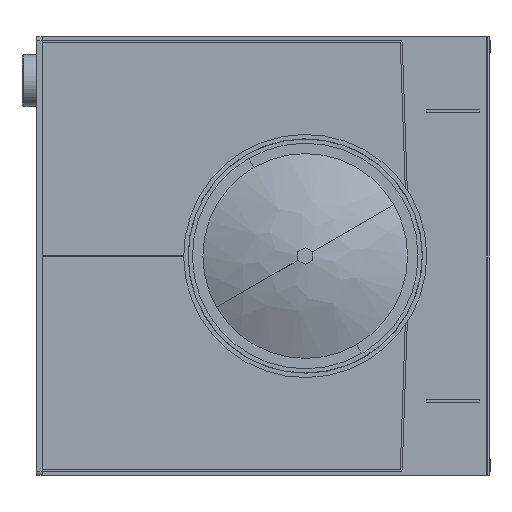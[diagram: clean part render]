
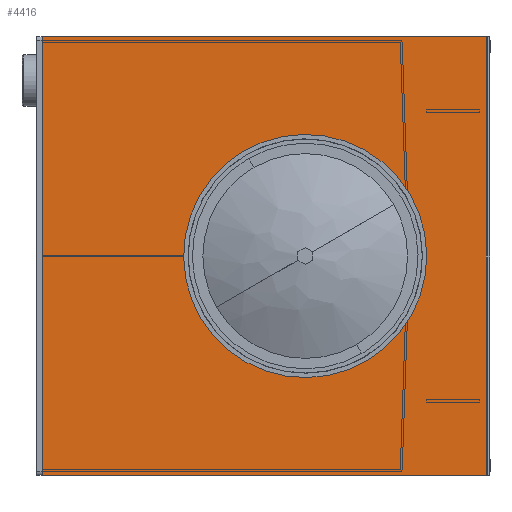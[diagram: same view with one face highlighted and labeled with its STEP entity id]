
A CAD part, left-side view. The second image highlights one B-rep face of the part: STEP entity #4416.
In plain terms, the highlighted planar face has unit normal (-1, 0, 0) as drawn and (1, 0, 0) by its records, which use the part's own axes.
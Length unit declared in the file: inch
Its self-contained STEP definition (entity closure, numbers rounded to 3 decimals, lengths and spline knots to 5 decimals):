
#135 = AXIS2_PLACEMENT_3D ( 'NONE', #1831, #8805, #6735 ) ;
#156 = EDGE_CURVE ( 'NONE', #209, #452, #7527, .T. ) ;
#209 = VERTEX_POINT ( 'NONE', #396 ) ;
#284 = EDGE_CURVE ( 'NONE', #1583, #8450, #1365, .T. ) ;
#347 = VERTEX_POINT ( 'NONE', #1996 ) ;
#396 = CARTESIAN_POINT ( 'NONE',  ( 0., 100.1603, -15. ) ) ;
#444 = CARTESIAN_POINT ( 'NONE',  ( 0., 0., 0. ) ) ;
#452 = VERTEX_POINT ( 'NONE', #7043 ) ;
#520 = FACE_OUTER_BOUND ( 'NONE', #1074, .T. ) ;
#521 = DIRECTION ( 'NONE',  ( 0., 1., 0. ) ) ;
#662 = DIRECTION ( 'NONE',  ( 1., 0., 0. ) ) ;
#1074 = EDGE_LOOP ( 'NONE', ( #1839, #1937, #6193, #6730 ) ) ;
#1123 = CARTESIAN_POINT ( 'NONE',  ( 0., 99.9103, 15. ) ) ;
#1254 = ORIENTED_EDGE ( 'NONE', *, *, #7769, .F. ) ;
#1365 = CIRCLE ( 'NONE', #3961, 7. ) ;
#1583 = VERTEX_POINT ( 'NONE', #5091 ) ;
#1831 = CARTESIAN_POINT ( 'NONE',  ( 0., 112.5448, 0. ) ) ;
#1839 = ORIENTED_EDGE ( 'NONE', *, *, #5697, .T. ) ;
#1937 = ORIENTED_EDGE ( 'NONE', *, *, #156, .T. ) ;
#1996 = CARTESIAN_POINT ( 'NONE',  ( 0., 100.1603, 15. ) ) ;
#2031 = CARTESIAN_POINT ( 'NONE',  ( 0., 112.5448, 0. ) ) ;
#2075 = CIRCLE ( 'NONE', #135, 7. ) ;
#2271 = VERTEX_POINT ( 'NONE', #7236 ) ;
#2508 = EDGE_CURVE ( 'NONE', #2271, #347, #8921, .T. ) ;
#2922 = CARTESIAN_POINT ( 'NONE',  ( 0., 130.5353, 15. ) ) ;
#2935 = AXIS2_PLACEMENT_3D ( 'NONE', #444, #6038, #3834 ) ;
#2984 = DIRECTION ( 'NONE',  ( 0., 0., 1. ) ) ;
#3481 = DIRECTION ( 'NONE',  ( 0., 0., -1. ) ) ;
#3784 = EDGE_LOOP ( 'NONE', ( #1254, #4096 ) ) ;
#3834 = DIRECTION ( 'NONE',  ( 0., 0., 1. ) ) ;
#3899 = PLANE ( 'NONE',  #2935 ) ;
#3961 = AXIS2_PLACEMENT_3D ( 'NONE', #2031, #662, #3481 ) ;
#4096 = ORIENTED_EDGE ( 'NONE', *, *, #284, .F. ) ;
#4416 = ADVANCED_FACE ( 'NONE', ( #7457, #520 ), #3899, .F. ) ;
#5091 = CARTESIAN_POINT ( 'NONE',  ( 0., 112.5448, 7. ) ) ;
#5223 = VECTOR ( 'NONE', #8966, 39.37008 ) ;
#5427 = CARTESIAN_POINT ( 'NONE',  ( 0., 99.9103, -15. ) ) ;
#5434 = VECTOR ( 'NONE', #521, 39.37008 ) ;
#5627 = VECTOR ( 'NONE', #6728, 39.37008 ) ;
#5697 = EDGE_CURVE ( 'NONE', #347, #209, #7088, .T. ) ;
#5921 = LINE ( 'NONE', #2922, #8673 ) ;
#6038 = DIRECTION ( 'NONE',  ( -1., 0., 0. ) ) ;
#6193 = ORIENTED_EDGE ( 'NONE', *, *, #7658, .T. ) ;
#6728 = DIRECTION ( 'NONE',  ( 0., -1., 0. ) ) ;
#6730 = ORIENTED_EDGE ( 'NONE', *, *, #2508, .T. ) ;
#6735 = DIRECTION ( 'NONE',  ( 0., 0., -1. ) ) ;
#6744 = CARTESIAN_POINT ( 'NONE',  ( 0., 112.5448, -7. ) ) ;
#7043 = CARTESIAN_POINT ( 'NONE',  ( 0., 130.5353, -15. ) ) ;
#7088 = LINE ( 'NONE', #8258, #5223 ) ;
#7236 = CARTESIAN_POINT ( 'NONE',  ( 0., 130.5353, 15. ) ) ;
#7457 = FACE_BOUND ( 'NONE', #3784, .T. ) ;
#7527 = LINE ( 'NONE', #5427, #5434 ) ;
#7658 = EDGE_CURVE ( 'NONE', #452, #2271, #5921, .T. ) ;
#7769 = EDGE_CURVE ( 'NONE', #8450, #1583, #2075, .T. ) ;
#8258 = CARTESIAN_POINT ( 'NONE',  ( 0., 100.1603, 15. ) ) ;
#8450 = VERTEX_POINT ( 'NONE', #6744 ) ;
#8673 = VECTOR ( 'NONE', #2984, 39.37008 ) ;
#8805 = DIRECTION ( 'NONE',  ( 1., 0., 0. ) ) ;
#8921 = LINE ( 'NONE', #1123, #5627 ) ;
#8966 = DIRECTION ( 'NONE',  ( 0., 0., -1. ) ) ;
